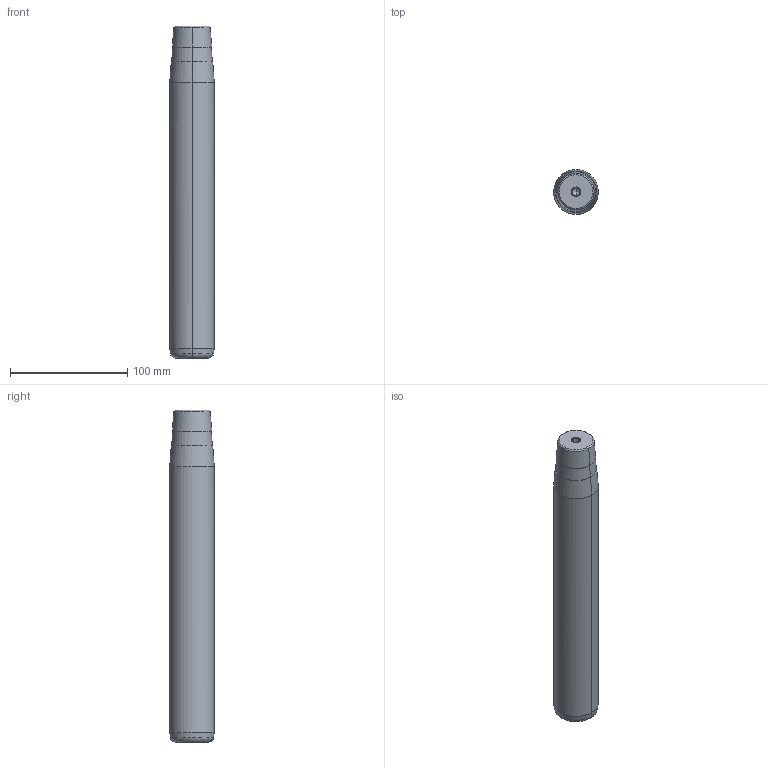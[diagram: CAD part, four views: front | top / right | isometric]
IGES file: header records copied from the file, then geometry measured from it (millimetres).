
Start section: START RECORD GO HERE.
Global section: file name: 722-38x250x283.igs; native system: DASSAULT SYSTEMES CATIA V5 R20 - www.3ds.com; preprocessor: CATIA Version 5 Release 20 ; author: Utente; organization: NB04-ASUS; date: 20210108.170145; units: millimetre
Bounding box: 38 x 38 x 283 mm (x, y, z)
Surface area: 35912.2 mm2 (no closed solid volume)
Topology: 0 solids, 0 shells, 32 faces, 192 edges, 188 vertices
Faces by surface type: revolution 30, plane 2
